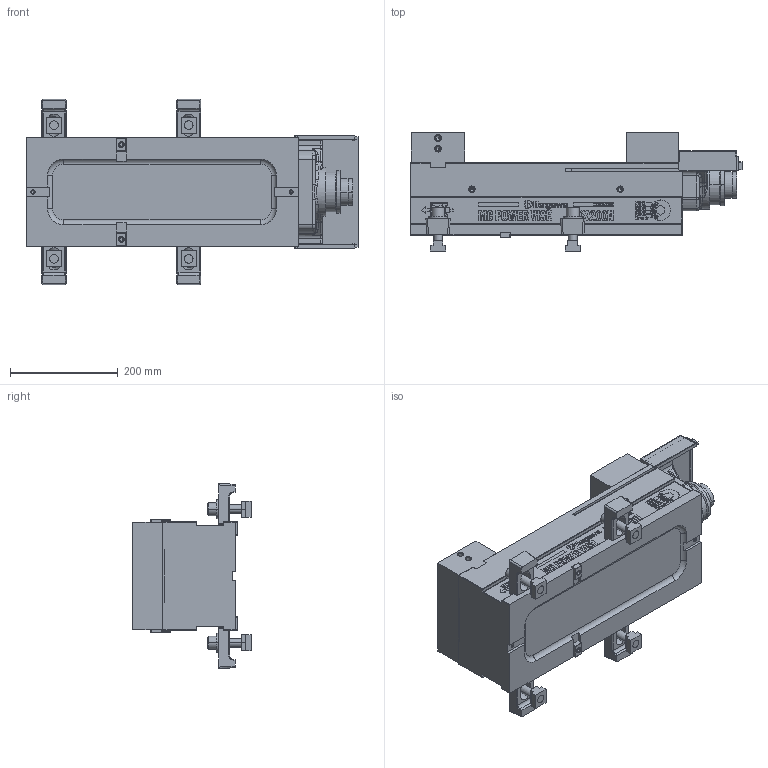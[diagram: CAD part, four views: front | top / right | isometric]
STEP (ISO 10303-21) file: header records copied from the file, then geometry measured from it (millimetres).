
FILE_DESCRIPTION (( 'STEP AP214' ), '1' );
FILE_NAME ('VQX200N_O.STEP', '2023-08-06T23:34:34', ( '' ), ( '' ), 'SwSTEP 2.0', 'SolidWorks 2020', '' );
FILE_SCHEMA (( 'AUTOMOTIVE_DESIGN' ));
Length unit declared in the file: millimetre
Products named in the file (19): カバアリング(61M4267321)VQX160; スリーブ他(61M3231673)VQ100; クランプクミタテ(61M420565); 僗儔僀僪僇僶乕Z(61M8024141)VQX200N; 僗儔僀僪僇僶乕Y(61M8024132)VQX200N; スプリングケース(61M2340692)VQX200; VQX200N_O; ガイドブロック(61M4197783); 僗儔僀僪僇僶乕X(61M8024122)VQX200N; クランプ(61M3159626)VP160; ボデー(61M1066327)VQX200; Bアナツキ M16×65; VQX200Nホンタイ; 僕儑乕F(61M3964100)VQX200N; 僒僀僪僔乕儖L(61M8170710); 僒僀僪僔乕儖R(61M8170700); 儚僢僔儍丂16乮61M4266330乯; T僗儘僢僩僫僢僩俿俶俵侾俉侾俇; 僕儑乕M(61俵3964110)VQX200N
Assembly tree (22 placements, depth 3):
  VQX200N_O
    VQX200Nホンタイ
      ボデー(61M1066327)VQX200
      ガイドブロック(61M4197783)  x2
      スプリングケース(61M2340692)VQX200
      カバアリング(61M4267321)VQX160
      スリーブ他(61M3231673)VQ100
      僕儑乕F(61M3964100)VQX200N
      僕儑乕M(61俵3964110)VQX200N
      僗儔僀僪僇僶乕X(61M8024122)VQX200N
      僗儔僀僪僇僶乕Y(61M8024132)VQX200N
      僗儔僀僪僇僶乕Z(61M8024141)VQX200N
      僒僀僪僔乕儖L(61M8170710)
      僒僀僪僔乕儖R(61M8170700)
    クランプクミタテ(61M420565)  x4
      クランプ(61M3159626)VP160
      儚僢僔儍丂16乮61M4266330乯
      Bアナツキ M16×65
      T僗儘僢僩僫僢僩俿俶俵侾俉侾俇
Bounding box: 616.2 x 220 x 344 mm (x, y, z)
Volume: 16368699 mm3; surface area: 1052703.7 mm2
Topology: 29 solids, 29 shells, 1200 faces, 6255 edges, 5419 vertices
Faces by surface type: plane 810, cylinder 251, cone 98, torus 21, bspline 20
Entity records: 69610 total; most frequent: CARTESIAN_POINT 18096, ORIENTED_EDGE 11412, DIRECTION 7678, EDGE_CURVE 5706, VERTEX_POINT 5089, VECTOR 4592, LINE 4592, AXIS2_PLACEMENT_3D 1543
